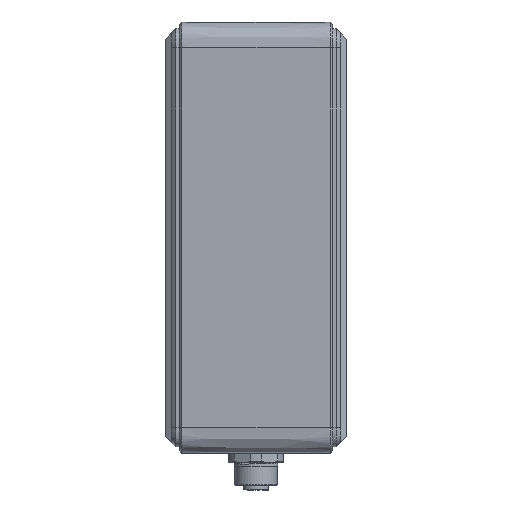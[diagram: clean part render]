
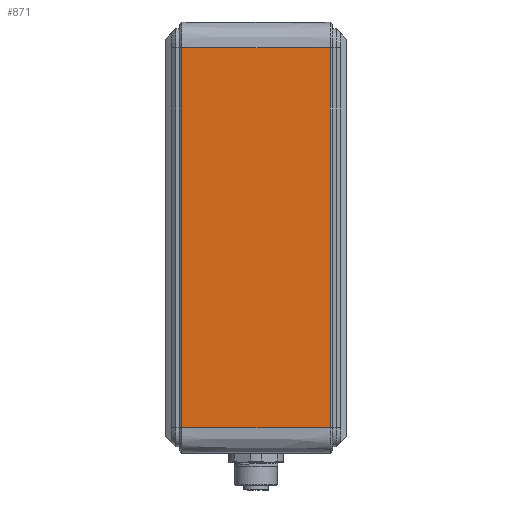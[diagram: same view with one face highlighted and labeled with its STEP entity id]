
A CAD part, left-side view. The second image highlights one B-rep face of the part: STEP entity #871.
In plain terms, the highlighted planar face has unit normal (-1, 0, 0).
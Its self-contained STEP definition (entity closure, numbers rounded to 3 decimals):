
#871=ADVANCED_FACE('',(#1573),#11446,.T.);
#1573=FACE_OUTER_BOUND('',#2311,.T.);
#2311=EDGE_LOOP('',(#3481,#3482,#3483,#3484));
#3481=ORIENTED_EDGE('',*,*,#6699,.F.);
#3482=ORIENTED_EDGE('',*,*,#6700,.F.);
#3483=ORIENTED_EDGE('',*,*,#6701,.F.);
#3484=ORIENTED_EDGE('',*,*,#6698,.F.);
#6698=EDGE_CURVE('',#10301,#10302,#8374,.T.);
#6699=EDGE_CURVE('',#10303,#10301,#8375,.T.);
#6700=EDGE_CURVE('',#10304,#10303,#8376,.T.);
#6701=EDGE_CURVE('',#10302,#10304,#8377,.T.);
#8374=B_SPLINE_CURVE_WITH_KNOTS('',3,(#24932,#24933,#24934,#24935),
 .UNSPECIFIED.,.F.,.F.,(4,4),(-46.4,0.),.UNSPECIFIED.);
#8375=B_SPLINE_CURVE_WITH_KNOTS('',1,(#24936,#24937),.UNSPECIFIED.,.F.,
 .F.,(2,2),(-119.,0.),.UNSPECIFIED.);
#8376=B_SPLINE_CURVE_WITH_KNOTS('',3,(#24938,#24939,#24940,#24941),
 .UNSPECIFIED.,.F.,.F.,(4,4),(-46.4,0.),.UNSPECIFIED.);
#8377=B_SPLINE_CURVE_WITH_KNOTS('',1,(#24942,#24943),.UNSPECIFIED.,.F.,
 .F.,(2,2),(-119.,0.),.UNSPECIFIED.);
#10301=VERTEX_POINT('',#22474);
#10302=VERTEX_POINT('',#22475);
#10303=VERTEX_POINT('',#22476);
#10304=VERTEX_POINT('',#22477);
#11446=PLANE('',#11882);
#11882=AXIS2_PLACEMENT_3D('',#13042,#12348,$);
#12348=DIRECTION('',(-1.,0.,0.));
#13042=CARTESIAN_POINT('',(-110.,-1.34,71.4));
#22474=CARTESIAN_POINT('',(-110.,3.3,-59.5));
#22475=CARTESIAN_POINT('',(-110.,49.7,-59.5));
#22476=CARTESIAN_POINT('',(-110.,3.3,59.5));
#22477=CARTESIAN_POINT('',(-110.,49.7,59.5));
#24932=CARTESIAN_POINT('',(-110.,3.3,-59.5));
#24933=CARTESIAN_POINT('',(-110.,18.767,-59.5));
#24934=CARTESIAN_POINT('',(-110.,34.233,-59.5));
#24935=CARTESIAN_POINT('',(-110.,49.7,-59.5));
#24936=CARTESIAN_POINT('',(-110.,3.3,59.5));
#24937=CARTESIAN_POINT('',(-110.,3.3,-59.5));
#24938=CARTESIAN_POINT('',(-110.,49.7,59.5));
#24939=CARTESIAN_POINT('',(-110.,34.233,59.5));
#24940=CARTESIAN_POINT('',(-110.,18.767,59.5));
#24941=CARTESIAN_POINT('',(-110.,3.3,59.5));
#24942=CARTESIAN_POINT('',(-110.,49.7,-59.5));
#24943=CARTESIAN_POINT('',(-110.,49.7,59.5));
